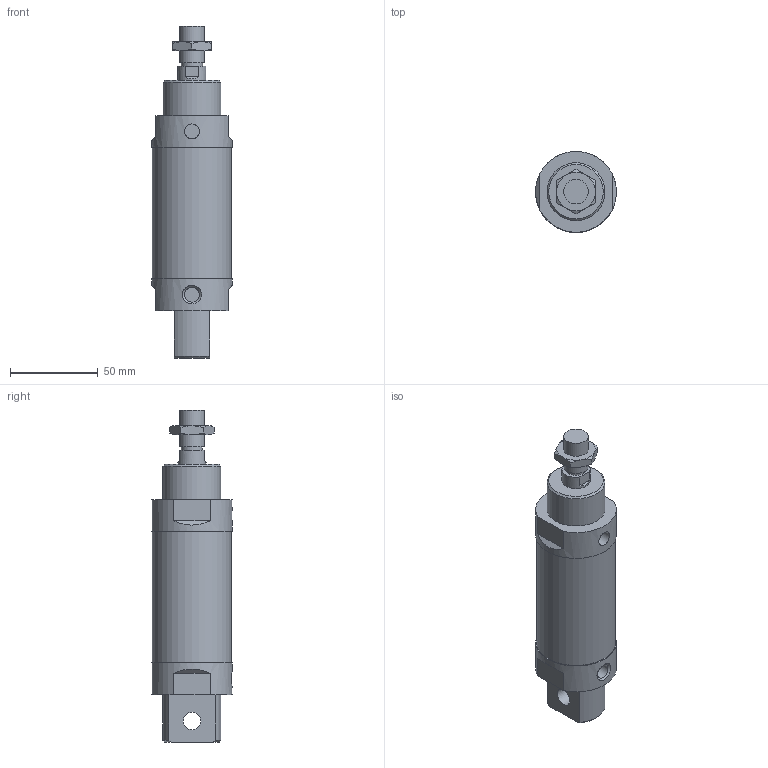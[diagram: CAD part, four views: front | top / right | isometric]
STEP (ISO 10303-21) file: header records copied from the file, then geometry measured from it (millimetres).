
FILE_DESCRIPTION((''),'2;1');
FILE_NAME('I:\3D電子目錄\氣缸\FDA\FDA\FDA\FDA40\FDA40x25.stp','2007-10-23T13:29:11',('66-2f-008'),(''),'Autodesk Inventor 11','Autodesk Inventor 11','');
FILE_SCHEMA(('AUTOMOTIVE_DESIGN { 1 0 10303 214 1 1 1 1 }'));
Length unit declared in the file: millimetre
Products named in the file (1): FDA40
Bounding box: 45.99 x 45.95 x 189 mm (x, y, z)
Volume: 214796.8 mm3; surface area: 26709.5 mm2
Topology: 1 solids, 1 shells, 62 faces, 144 edges, 95 vertices
Faces by surface type: plane 29, cone 15, cylinder 13, bspline 5
Full cylindrical faces by diameter (mm): 8.5 x2, 10 x1, 12 x1, 14 x2, 16 x1, 33 x1, 45 x1, 46 x2
Entity records: 1929 total; most frequent: CARTESIAN_POINT 638, DIRECTION 256, ORIENTED_EDGE 250, EDGE_CURVE 125, AXIS2_PLACEMENT_3D 106, VERTEX_POINT 88, EDGE_LOOP 87, FACE_OUTER_BOUND 62
